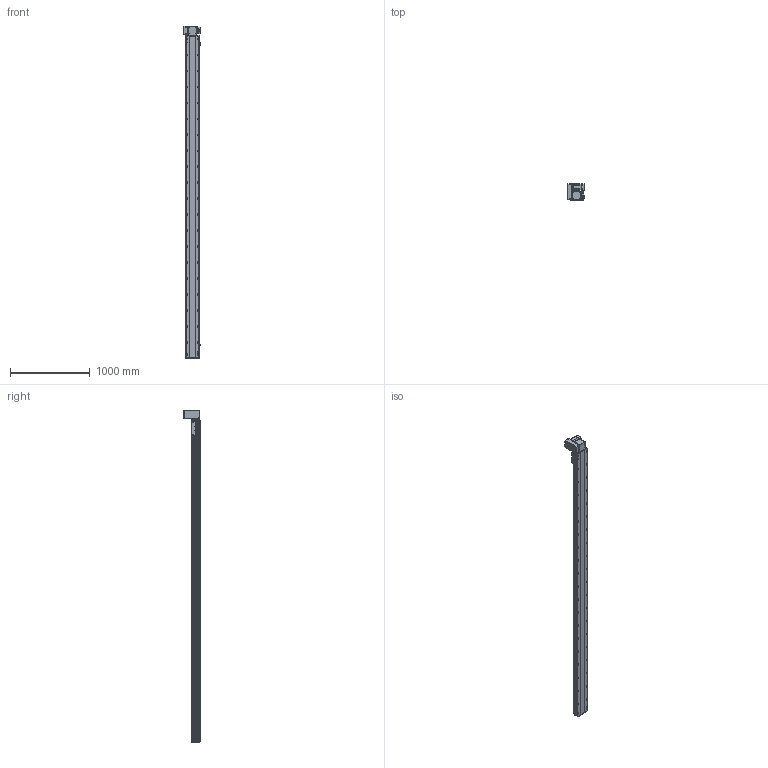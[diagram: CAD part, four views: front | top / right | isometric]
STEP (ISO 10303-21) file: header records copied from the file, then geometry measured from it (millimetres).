
FILE_DESCRIPTION (( 'STEP AP214' ), '1' );
FILE_NAME ('RTB17S-XX-3750-LW-M75-C4.STEP', '2025-12-12T01:24:25', ( '' ), ( '' ), 'SwSTEP 2.0', 'SolidWorks 2018', '' );
FILE_SCHEMA (( 'AUTOMOTIVE_DESIGN' ));
Length unit declared in the file: millimetre
Products named in the file (15): RTH13-BL-012覜茼え俋离^RTB17S-賑釱_RTB17S-XX-XX-LW-M75-C4; RTB17S-L-001-耜醱啣^RTB17S-XX-XX-LW-M75-C4; RTB17S-L-004-賑釱^RTB17S-賑釱_RTB17S-XX-XX-LW-M75-C4; RTB22S-GY-008-M75--萇儂啣^RTB17S-LW-々湍釱蚾饜-750W_RTB17S-XX-XX-LW-M75-C4; RTB17S-LW-々湍釱蚾饜-750W^RTB17S-XX-XX-LW-M75-C4; RTB22S-GY-017P^RTB17S-LW-々湍釱蚾饜-750W_RTB17S-XX-XX-LW-M75-C4; RTB17-R-011菁釱^RTB17S-XX-XX-LW-M75-C4; RTB22S-GY-005P^RTB17S-LW-々湍釱蚾饜-750W_RTB17S-XX-XX-LW-M75-C4; RTB17S-L-014-T20-P75--々湍釱^RTB17S-LW-々湍釱蚾饜-750W_RTB17S-XX-XX-LW-M75-C4; RTB22S-GY-018P^RTB17S-LW-々湍釱蚾饜-750W_RTB17S-XX-XX-LW-M75-C4; RTB17S-賑釱^RTB17S-XX-XX-LW-M75-C4; 750W萇儂^RTB17S-XX-XX-LW-M75-C4; RTB17S-XX-3750-LW-M75-C4; RTB17S-L-007奻裔^RTB17S-XX-XX-LW-M75-C4; EE672^RTB17S-XX-XX-LW-M75-C4
Assembly tree (17 placements, depth 3):
  RTB17S-XX-3750-LW-M75-C4
    RTB17-R-011菁釱^RTB17S-XX-XX-LW-M75-C4
    EE672^RTB17S-XX-XX-LW-M75-C4  x3
    RTB17S-L-001-耜醱啣^RTB17S-XX-XX-LW-M75-C4
    RTB17S-賑釱^RTB17S-XX-XX-LW-M75-C4
      RTB17S-L-004-賑釱^RTB17S-賑釱_RTB17S-XX-XX-LW-M75-C4
      RTH13-BL-012覜茼え俋离^RTB17S-賑釱_RTB17S-XX-XX-LW-M75-C4
    RTB17S-L-007奻裔^RTB17S-XX-XX-LW-M75-C4
    750W萇儂^RTB17S-XX-XX-LW-M75-C4
    RTB17S-LW-々湍釱蚾饜-750W^RTB17S-XX-XX-LW-M75-C4
      RTB17S-L-014-T20-P75--々湍釱^RTB17S-LW-々湍釱蚾饜-750W_RTB17S-XX-XX-LW-M75-C4
      RTB22S-GY-005P^RTB17S-LW-々湍釱蚾饜-750W_RTB17S-XX-XX-LW-M75-C4
      RTB22S-GY-017P^RTB17S-LW-々湍釱蚾饜-750W_RTB17S-XX-XX-LW-M75-C4  x2
      RTB22S-GY-008-M75--萇儂啣^RTB17S-LW-々湍釱蚾饜-750W_RTB17S-XX-XX-LW-M75-C4
      RTB22S-GY-018P^RTB17S-LW-々湍釱蚾饜-750W_RTB17S-XX-XX-LW-M75-C4
Bounding box: 210.4 x 201.5 x 4157.5 mm (x, y, z)
Volume: 29391825.9 mm3; surface area: 5448824.4 mm2
Topology: 17 solids, 17 shells, 2313 faces, 6538 edges, 4238 vertices
Faces by surface type: plane 998, cylinder 899, bspline 294, cone 110, sphere 8, torus 4
Entity records: 68854 total; most frequent: CARTESIAN_POINT 20602, ORIENTED_EDGE 9920, DIRECTION 9122, EDGE_CURVE 4960, AXIS2_PLACEMENT_3D 3258, VERTEX_POINT 3242, LINE 2606, VECTOR 2606
